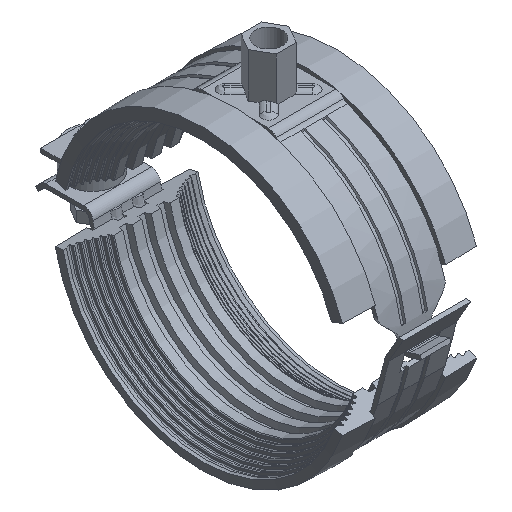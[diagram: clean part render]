
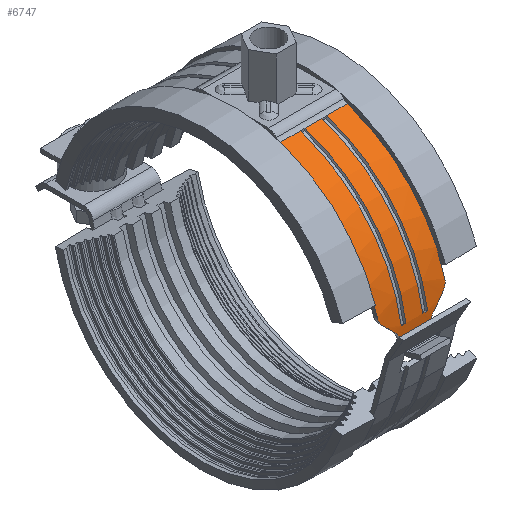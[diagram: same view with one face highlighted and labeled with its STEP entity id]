
A CAD part, isometric view. The second image highlights one B-rep face of the part: STEP entity #6747.
In plain terms, the highlighted cylindrical face has radius 54.6 mm (diameter 109.2 mm), a partial arc.
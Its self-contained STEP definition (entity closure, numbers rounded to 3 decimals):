
#177=B_SPLINE_CURVE_WITH_KNOTS('',3,(#11695,#11696,#11697,#11698,#11699,
#11700),.UNSPECIFIED.,.F.,.F.,(4,2,4),(0.802,0.943,
1.132),.UNSPECIFIED.);
#178=B_SPLINE_CURVE_WITH_KNOTS('',3,(#11709,#11710,#11711,#11712,#11713,
#11714),.UNSPECIFIED.,.F.,.F.,(4,2,4),(1.887,2.075,
2.216),.UNSPECIFIED.);
#181=B_SPLINE_CURVE_WITH_KNOTS('',3,(#11731,#11732,#11733,#11734,#11735,
#11736),.UNSPECIFIED.,.F.,.F.,(4,2,4),(0.616,0.771,
0.925),.UNSPECIFIED.);
#182=B_SPLINE_CURVE_WITH_KNOTS('',3,(#11740,#11741,#11742,#11743,#11744,
#11745),.UNSPECIFIED.,.F.,.F.,(4,2,4),(0.303,0.456,
0.611),.UNSPECIFIED.);
#203=ELLIPSE('',#7499,77.216,54.6);
#204=ELLIPSE('',#7502,77.216,54.6);
#291=CYLINDRICAL_SURFACE('',#7507,54.6);
#677=CIRCLE('',#7404,54.6);
#678=CIRCLE('',#7405,54.6);
#681=CIRCLE('',#7411,54.6);
#682=CIRCLE('',#7412,54.6);
#729=CIRCLE('',#7505,54.6);
#730=CIRCLE('',#7508,54.6);
#1063=FACE_OUTER_BOUND('',#1421,.T.);
#1421=EDGE_LOOP('',(#5879,#5880,#5881,#5882,#5883,#5884,#5885,#5886,#5887,
#5888,#5889,#5890,#5891,#5892,#5893,#5894,#5895,#5896));
#1856=LINE('',#11257,#2363);
#1864=LINE('',#11292,#2371);
#1907=LINE('',#11560,#2414);
#1908=LINE('',#11564,#2415);
#1909=LINE('',#11565,#2416);
#1928=LINE('',#11746,#2435);
#2363=VECTOR('',#9243,1.776);
#2371=VECTOR('',#9265,1.776);
#2414=VECTOR('',#9416,7.612);
#2415=VECTOR('',#9421,7.612);
#2416=VECTOR('',#9422,6.224);
#2435=VECTOR('',#9519,11.047);
#2986=VERTEX_POINT('',#11240);
#2987=VERTEX_POINT('',#11242);
#2988=VERTEX_POINT('',#11251);
#2989=VERTEX_POINT('',#11253);
#2994=VERTEX_POINT('',#11275);
#2995=VERTEX_POINT('',#11277);
#2996=VERTEX_POINT('',#11286);
#2997=VERTEX_POINT('',#11288);
#3036=VERTEX_POINT('',#11559);
#3037=VERTEX_POINT('',#11562);
#3049=VERTEX_POINT('',#11677);
#3050=VERTEX_POINT('',#11679);
#3052=VERTEX_POINT('',#11684);
#3054=VERTEX_POINT('',#11702);
#3055=VERTEX_POINT('',#11704);
#3056=VERTEX_POINT('',#11708);
#3059=VERTEX_POINT('',#11727);
#3060=VERTEX_POINT('',#11738);
#3874=EDGE_CURVE('',#2986,#2987,#677,.T.);
#3876=EDGE_CURVE('',#2989,#2988,#678,.T.);
#3878=EDGE_CURVE('',#2987,#2989,#1856,.T.);
#3886=EDGE_CURVE('',#2994,#2995,#681,.T.);
#3888=EDGE_CURVE('',#2997,#2996,#682,.T.);
#3890=EDGE_CURVE('',#2995,#2997,#1864,.T.);
#3965=EDGE_CURVE('',#3036,#2986,#1907,.T.);
#3968=EDGE_CURVE('',#2996,#3037,#1908,.T.);
#3969=EDGE_CURVE('',#2988,#2994,#1909,.T.);
#3998=EDGE_CURVE('',#3050,#3049,#203,.T.);
#4003=EDGE_CURVE('',#3052,#3050,#177,.T.);
#4006=EDGE_CURVE('',#3054,#3055,#204,.T.);
#4007=EDGE_CURVE('',#3055,#3056,#178,.T.);
#4012=EDGE_CURVE('',#3036,#3059,#729,.T.);
#4013=EDGE_CURVE('',#3059,#3049,#181,.T.);
#4014=EDGE_CURVE('',#3060,#3037,#730,.T.);
#4015=EDGE_CURVE('',#3054,#3060,#182,.T.);
#4016=EDGE_CURVE('',#3052,#3056,#1928,.T.);
#5879=ORIENTED_EDGE('',*,*,#3876,.T.);
#5880=ORIENTED_EDGE('',*,*,#3969,.T.);
#5881=ORIENTED_EDGE('',*,*,#3886,.T.);
#5882=ORIENTED_EDGE('',*,*,#3890,.T.);
#5883=ORIENTED_EDGE('',*,*,#3888,.T.);
#5884=ORIENTED_EDGE('',*,*,#3968,.T.);
#5885=ORIENTED_EDGE('',*,*,#4014,.F.);
#5886=ORIENTED_EDGE('',*,*,#4015,.F.);
#5887=ORIENTED_EDGE('',*,*,#4006,.T.);
#5888=ORIENTED_EDGE('',*,*,#4007,.T.);
#5889=ORIENTED_EDGE('',*,*,#4016,.F.);
#5890=ORIENTED_EDGE('',*,*,#4003,.T.);
#5891=ORIENTED_EDGE('',*,*,#3998,.T.);
#5892=ORIENTED_EDGE('',*,*,#4013,.F.);
#5893=ORIENTED_EDGE('',*,*,#4012,.F.);
#5894=ORIENTED_EDGE('',*,*,#3965,.T.);
#5895=ORIENTED_EDGE('',*,*,#3874,.T.);
#5896=ORIENTED_EDGE('',*,*,#3878,.T.);
#6747=ADVANCED_FACE('',(#1063),#291,.T.);
#7404=AXIS2_PLACEMENT_3D('',#11244,#9235,#9236);
#7405=AXIS2_PLACEMENT_3D('',#11254,#9238,#9239);
#7411=AXIS2_PLACEMENT_3D('',#11279,#9257,#9258);
#7412=AXIS2_PLACEMENT_3D('',#11289,#9260,#9261);
#7499=AXIS2_PLACEMENT_3D('',#11680,#9493,#9494);
#7502=AXIS2_PLACEMENT_3D('',#11706,#9503,#9504);
#7505=AXIS2_PLACEMENT_3D('',#11729,#9511,#9512);
#7507=AXIS2_PLACEMENT_3D('',#11737,#9515,#9516);
#7508=AXIS2_PLACEMENT_3D('',#11739,#9517,#9518);
#9235=DIRECTION('center_axis',(1.,0.,0.));
#9236=DIRECTION('ref_axis',(0.,-0.304,0.953));
#9238=DIRECTION('center_axis',(-1.,0.,0.));
#9239=DIRECTION('ref_axis',(0.,-0.304,0.953));
#9243=DIRECTION('',(-1.,0.,0.));
#9257=DIRECTION('center_axis',(1.,0.,0.));
#9258=DIRECTION('ref_axis',(0.,-0.304,0.953));
#9260=DIRECTION('center_axis',(-1.,0.,0.));
#9261=DIRECTION('ref_axis',(0.,-0.304,0.953));
#9265=DIRECTION('',(-1.,0.,0.));
#9416=DIRECTION('',(-1.,0.,0.));
#9421=DIRECTION('',(-1.,0.,0.));
#9422=DIRECTION('',(-1.,0.,0.));
#9493=DIRECTION('center_axis',(-0.707,0.,0.707));
#9494=DIRECTION('ref_axis',(-0.707,0.,-0.707));
#9503=DIRECTION('center_axis',(0.707,0.,0.707));
#9504=DIRECTION('ref_axis',(0.707,0.,-0.707));
#9511=DIRECTION('center_axis',(1.,0.,0.));
#9512=DIRECTION('ref_axis',(0.,0.304,-0.953));
#9515=DIRECTION('center_axis',(1.,0.,0.));
#9516=DIRECTION('ref_axis',(0.,0.304,-0.953));
#9517=DIRECTION('center_axis',(-1.,0.,0.));
#9518=DIRECTION('ref_axis',(0.,0.304,-0.953));
#9519=DIRECTION('',(-1.,0.,0.));
#11240=CARTESIAN_POINT('',(4.888,-16.579,52.022));
#11242=CARTESIAN_POINT('',(4.888,-53.992,8.128));
#11244=CARTESIAN_POINT('Origin',(4.888,0.,
0.));
#11251=CARTESIAN_POINT('',(3.112,-16.579,52.022));
#11253=CARTESIAN_POINT('',(3.112,-53.992,8.128));
#11254=CARTESIAN_POINT('Origin',(3.112,0.,
0.));
#11257=CARTESIAN_POINT('',(0.,-53.992,8.128));
#11275=CARTESIAN_POINT('',(-3.112,-16.579,52.022));
#11277=CARTESIAN_POINT('',(-3.112,-53.992,8.128));
#11279=CARTESIAN_POINT('Origin',(-3.112,0.,
0.));
#11286=CARTESIAN_POINT('',(-4.888,-16.579,52.022));
#11288=CARTESIAN_POINT('',(-4.888,-53.992,8.128));
#11289=CARTESIAN_POINT('Origin',(-4.888,0.,
0.));
#11292=CARTESIAN_POINT('',(0.,-53.992,8.128));
#11559=CARTESIAN_POINT('',(12.5,-16.579,52.022));
#11560=CARTESIAN_POINT('',(0.,-16.579,52.022));
#11562=CARTESIAN_POINT('',(-12.5,-16.579,52.022));
#11564=CARTESIAN_POINT('',(0.,-16.579,52.022));
#11565=CARTESIAN_POINT('',(0.,-16.579,52.022));
#11677=CARTESIAN_POINT('',(11.328,-53.431,11.238));
#11679=CARTESIAN_POINT('',(6.964,-54.166,6.874));
#11680=CARTESIAN_POINT('Origin',(0.09,0.,0.));
#11684=CARTESIAN_POINT('',(5.524,-54.466,3.825));
#11695=CARTESIAN_POINT('Ctrl Pts',(5.524,-54.466,3.825));
#11696=CARTESIAN_POINT('Ctrl Pts',(5.571,-54.432,4.306));
#11697=CARTESIAN_POINT('Ctrl Pts',(5.691,-54.391,4.796));
#11698=CARTESIAN_POINT('Ctrl Pts',(6.137,-54.287,5.87));
#11699=CARTESIAN_POINT('Ctrl Pts',(6.521,-54.222,6.431));
#11700=CARTESIAN_POINT('Ctrl Pts',(6.964,-54.166,6.874));
#11702=CARTESIAN_POINT('',(-11.328,-53.431,11.238));
#11704=CARTESIAN_POINT('',(-6.964,-54.166,6.874));
#11706=CARTESIAN_POINT('Origin',(-0.09,0.,0.));
#11708=CARTESIAN_POINT('',(-5.524,-54.466,3.825));
#11709=CARTESIAN_POINT('Ctrl Pts',(-6.964,-54.166,
6.874));
#11710=CARTESIAN_POINT('Ctrl Pts',(-6.521,-54.222,
6.431));
#11711=CARTESIAN_POINT('Ctrl Pts',(-6.137,-54.287,5.87));
#11712=CARTESIAN_POINT('Ctrl Pts',(-5.691,-54.391,
4.796));
#11713=CARTESIAN_POINT('Ctrl Pts',(-5.571,-54.432,4.306));
#11714=CARTESIAN_POINT('Ctrl Pts',(-5.524,-54.466,
3.825));
#11727=CARTESIAN_POINT('',(12.5,-52.757,14.067));
#11729=CARTESIAN_POINT('Origin',(12.5,0.,0.));
#11731=CARTESIAN_POINT('Ctrl Pts',(12.5,-52.757,14.067));
#11732=CARTESIAN_POINT('Ctrl Pts',(12.5,-52.89,13.567));
#11733=CARTESIAN_POINT('Ctrl Pts',(12.401,-53.025,13.031));
#11734=CARTESIAN_POINT('Ctrl Pts',(11.992,-53.257,12.046));
#11735=CARTESIAN_POINT('Ctrl Pts',(11.686,-53.356,11.596));
#11736=CARTESIAN_POINT('Ctrl Pts',(11.328,-53.431,11.238));
#11737=CARTESIAN_POINT('Origin',(0.,0.,0.));
#11738=CARTESIAN_POINT('',(-12.5,-52.757,14.067));
#11739=CARTESIAN_POINT('Origin',(-12.5,0.,0.));
#11740=CARTESIAN_POINT('Ctrl Pts',(-11.328,-53.431,
11.238));
#11741=CARTESIAN_POINT('Ctrl Pts',(-11.686,-53.356,
11.596));
#11742=CARTESIAN_POINT('Ctrl Pts',(-11.992,-53.257,
12.046));
#11743=CARTESIAN_POINT('Ctrl Pts',(-12.401,-53.025,13.031));
#11744=CARTESIAN_POINT('Ctrl Pts',(-12.5,-52.89,13.567));
#11745=CARTESIAN_POINT('Ctrl Pts',(-12.5,-52.757,14.067));
#11746=CARTESIAN_POINT('',(0.,-54.466,3.825));
